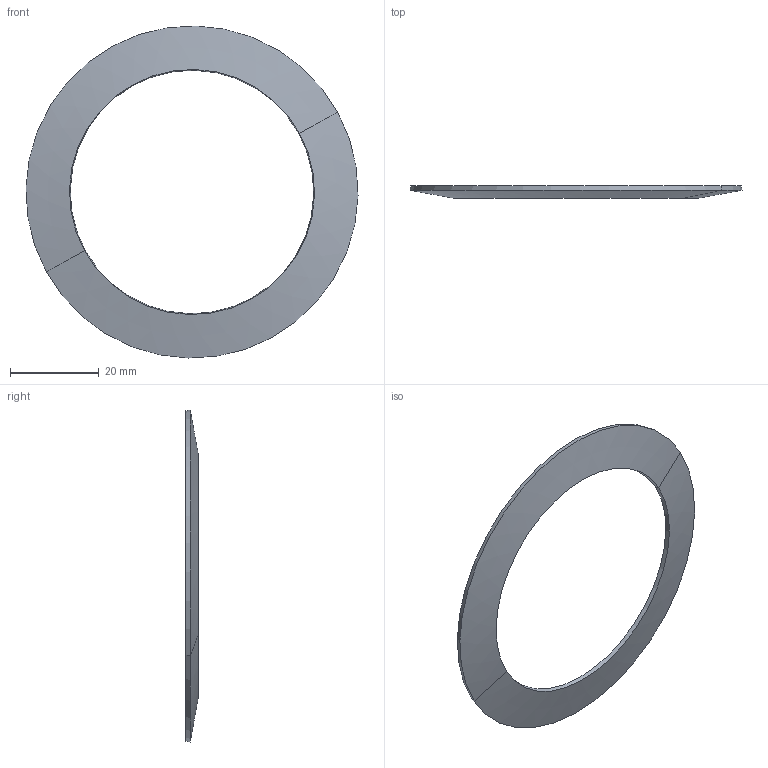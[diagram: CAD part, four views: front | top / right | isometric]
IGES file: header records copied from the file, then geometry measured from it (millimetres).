
Start section: START RECORD GO HERE.
Global section: file name: Rondelle elastique.igs; native system: IBM CATIA IGES - CATIA Version 5 Release 18 ; preprocessor: CATIA Version 5 Release 18 ; author: Propriétaire; organization: FUJITSU-79916BB; date: 20090111.191449; units: millimetre
Bounding box: 74.98 x 2.75 x 74.98 mm (x, y, z)
Surface area: 4484.5 mm2 (no closed solid volume)
Topology: 0 solids, 0 shells, 8 faces, 32 edges, 32 vertices
Faces by surface type: revolution 8
